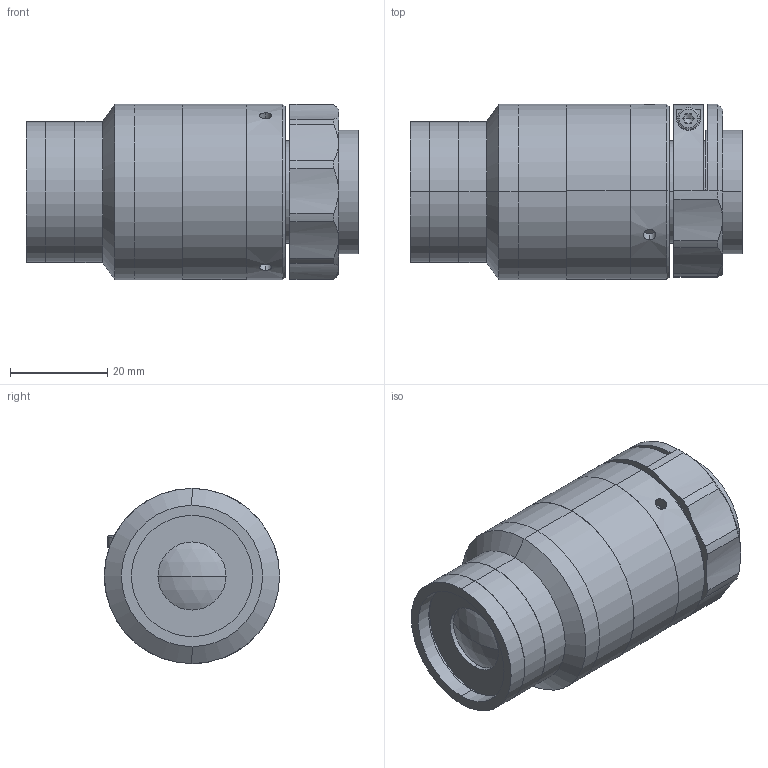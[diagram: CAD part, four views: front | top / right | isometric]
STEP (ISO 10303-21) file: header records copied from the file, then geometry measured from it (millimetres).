
FILE_DESCRIPTION (( 'STEP AP203' ), '1' );
FILE_NAME ('XF-MH04X155.STEP', '2020-08-24T07:08:36', ( 'canrill-02' ), ( '' ), 'SwSTEP 2.0', 'SolidWorks 2014', '' );
FILE_SCHEMA (( 'CONFIG_CONTROL_DESIGN' ));
Length unit declared in the file: millimetre
Products named in the file (1): XF-MH04X155
Bounding box: 68.24 x 36 x 36 mm (x, y, z)
Surface area: 13758.7 mm2 (no closed solid volume)
Topology: 0 solids, 12 shells, 104 faces, 274 edges, 186 vertices
Faces by surface type: cylinder 49, plane 36, cone 15, sphere 2, torus 2
Entity records: 3602 total; most frequent: CARTESIAN_POINT 884, DIRECTION 607, ORIENTED_EDGE 467, EDGE_CURVE 272, AXIS2_PLACEMENT_3D 253, VERTEX_POINT 186, CIRCLE 148, EDGE_LOOP 130
